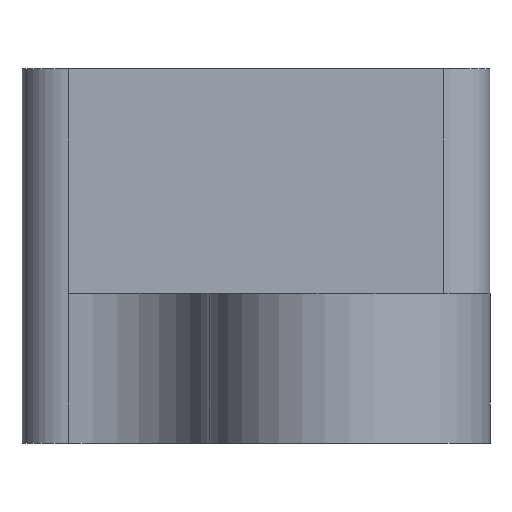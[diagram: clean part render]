
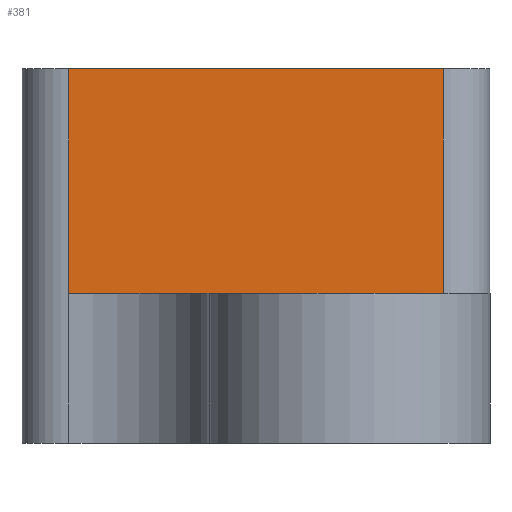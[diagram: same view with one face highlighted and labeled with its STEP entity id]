
A CAD part, left-side view. The second image highlights one B-rep face of the part: STEP entity #381.
In plain terms, the highlighted planar face has unit normal (-1, 0, 0).
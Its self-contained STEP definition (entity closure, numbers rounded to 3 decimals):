
#26=PLANE('',#445);
#55=FACE_OUTER_BOUND('',#81,.T.);
#81=EDGE_LOOP('',(#331,#332,#333,#334));
#107=LINE('',#639,#136);
#110=LINE('',#648,#139);
#115=LINE('',#668,#144);
#116=LINE('',#671,#145);
#136=VECTOR('',#515,10.);
#139=VECTOR('',#524,10.);
#144=VECTOR('',#547,10.);
#145=VECTOR('',#552,10.);
#195=VERTEX_POINT('',#636);
#196=VERTEX_POINT('',#638);
#199=VERTEX_POINT('',#646);
#205=VERTEX_POINT('',#667);
#236=EDGE_CURVE('',#195,#196,#107,.T.);
#241=EDGE_CURVE('',#199,#195,#110,.T.);
#251=EDGE_CURVE('',#196,#205,#115,.T.);
#253=EDGE_CURVE('',#199,#205,#116,.T.);
#331=ORIENTED_EDGE('',*,*,#241,.F.);
#332=ORIENTED_EDGE('',*,*,#253,.T.);
#333=ORIENTED_EDGE('',*,*,#251,.F.);
#334=ORIENTED_EDGE('',*,*,#236,.F.);
#381=ADVANCED_FACE('',(#55),#26,.T.);
#445=AXIS2_PLACEMENT_3D('',#670,#550,#551);
#515=DIRECTION('',(0.,-1.,0.));
#524=DIRECTION('',(0.,0.,1.));
#547=DIRECTION('',(0.,0.,-1.));
#550=DIRECTION('center_axis',(-1.,0.,0.));
#551=DIRECTION('ref_axis',(0.,-1.,0.));
#552=DIRECTION('',(0.,-1.,0.));
#636=CARTESIAN_POINT('',(-5.,6.,8.));
#638=CARTESIAN_POINT('',(-5.,-2.,8.));
#639=CARTESIAN_POINT('',(-5.,6.,8.));
#646=CARTESIAN_POINT('',(-5.,6.,3.2));
#648=CARTESIAN_POINT('',(-5.,6.,0.));
#667=CARTESIAN_POINT('',(-5.,-2.,3.2));
#668=CARTESIAN_POINT('',(-5.,-2.,0.));
#670=CARTESIAN_POINT('Origin',(-5.,7.,0.));
#671=CARTESIAN_POINT('',(-5.,-3.,3.2));
